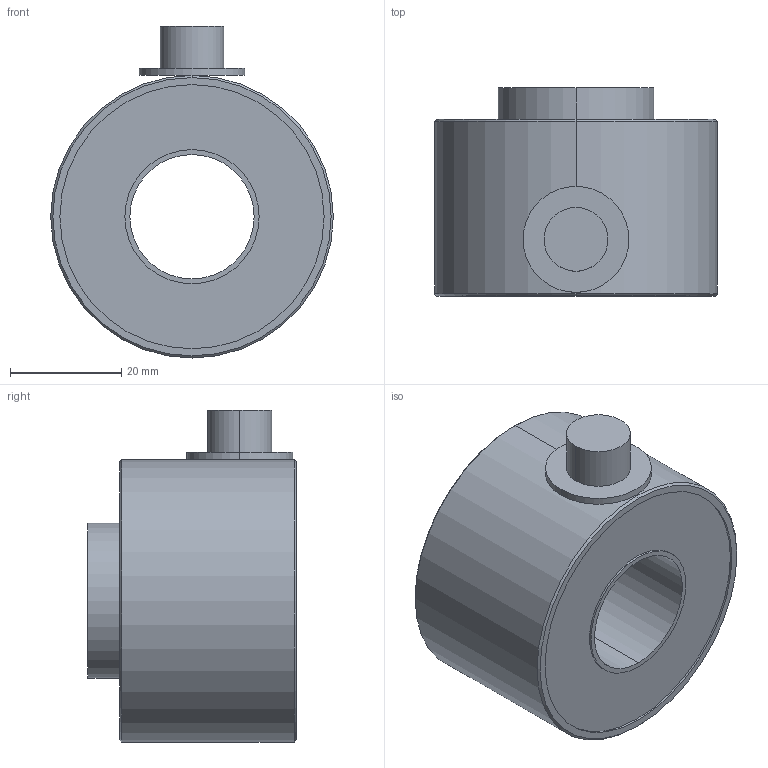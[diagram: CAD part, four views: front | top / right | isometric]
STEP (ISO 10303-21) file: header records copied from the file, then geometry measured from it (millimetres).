
FILE_DESCRIPTION (( 'STEP AP214' ), '1' );
FILE_NAME ('FINAL ASBY SS1758-3TO15KLB.STEP', '2024-08-12T14:55:26', ( '' ), ( '' ), 'SwSTEP 2.0', 'SolidWorks 2008', '' );
FILE_SCHEMA (( 'AUTOMOTIVE_DESIGN' ));
Length unit declared in the file: inch
Products named in the file (1): FINAL ASBY SS1758-3TO15KLB
Bounding box: 50.8 x 37.47 x 59.69 mm (x, y, z)
Volume: 53781.7 mm3; surface area: 12403.4 mm2
Topology: 2 solids, 2 shells, 26 faces, 50 edges, 32 vertices
Faces by surface type: cylinder 14, plane 8, cone 4
Entity records: 716 total; most frequent: DIRECTION 136, CARTESIAN_POINT 109, ORIENTED_EDGE 100, AXIS2_PLACEMENT_3D 59, EDGE_CURVE 50, EDGE_LOOP 32, CIRCLE 32, VERTEX_POINT 32
